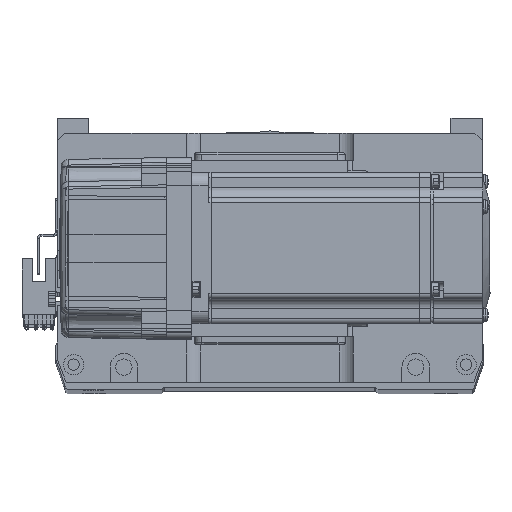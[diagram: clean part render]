
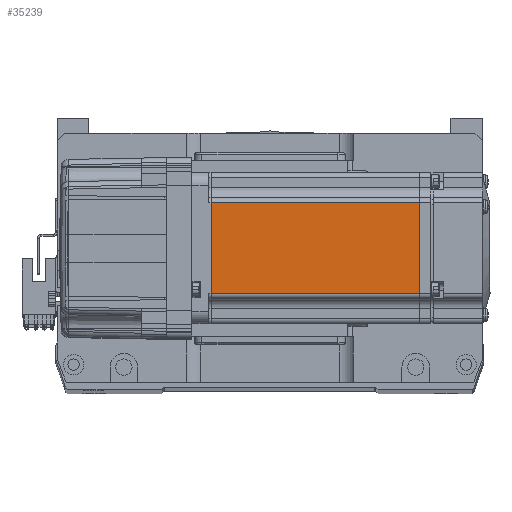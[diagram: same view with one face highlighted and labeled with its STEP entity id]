
A CAD part, top view. The second image highlights one B-rep face of the part: STEP entity #35239.
In plain terms, the highlighted planar face has unit normal (0, 0, 1) as drawn and (0, -1, 0) by its records, which use the part's own axes.
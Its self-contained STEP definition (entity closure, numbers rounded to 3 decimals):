
#461 = CARTESIAN_POINT ( 'NONE',  ( -7.75, -30., -18. ) ) ;
#705 = AXIS2_PLACEMENT_3D ( 'NONE', #25609, #21523, #46402 ) ;
#894 = VERTEX_POINT ( 'NONE', #43061 ) ;
#992 = VERTEX_POINT ( 'NONE', #49820 ) ;
#2748 = VECTOR ( 'NONE', #24475, 1000. ) ;
#5196 = ORIENTED_EDGE ( 'NONE', *, *, #39292, .T. ) ;
#11487 = ORIENTED_EDGE ( 'NONE', *, *, #30704, .T. ) ;
#15239 = CARTESIAN_POINT ( 'NONE',  ( -90.45, -30., -25. ) ) ;
#17259 = LINE ( 'NONE', #29127, #2748 ) ;
#19315 = FACE_OUTER_BOUND ( 'NONE', #26455, .T. ) ;
#20562 = CARTESIAN_POINT ( 'NONE',  ( -6.5, -30., 18. ) ) ;
#21523 = DIRECTION ( 'NONE',  ( 0., -1., 0. ) ) ;
#24475 = DIRECTION ( 'NONE',  ( 0., 0., 1. ) ) ;
#24971 = EDGE_CURVE ( 'NONE', #894, #33936, #48552, .T. ) ;
#25191 = VECTOR ( 'NONE', #59051, 1000. ) ;
#25609 = CARTESIAN_POINT ( 'NONE',  ( -6.5, -30., -25. ) ) ;
#26455 = EDGE_LOOP ( 'NONE', ( #5196, #46386, #11487, #34425 ) ) ;
#29127 = CARTESIAN_POINT ( 'NONE',  ( -7.75, -30., -25. ) ) ;
#30704 = EDGE_CURVE ( 'NONE', #33936, #992, #38175, .T. ) ;
#33936 = VERTEX_POINT ( 'NONE', #48478 ) ;
#34425 = ORIENTED_EDGE ( 'NONE', *, *, #45823, .T. ) ;
#35239 = ADVANCED_FACE ( 'NONE', ( #19315 ), #50378, .T. ) ;
#38175 = LINE ( 'NONE', #15239, #25191 ) ;
#39292 = EDGE_CURVE ( 'NONE', #48894, #894, #17259, .T. ) ;
#43061 = CARTESIAN_POINT ( 'NONE',  ( -7.75, -30., 18. ) ) ;
#45469 = CARTESIAN_POINT ( 'NONE',  ( -6.5, -30., -18. ) ) ;
#45823 = EDGE_CURVE ( 'NONE', #992, #48894, #49244, .T. ) ;
#46386 = ORIENTED_EDGE ( 'NONE', *, *, #24971, .T. ) ;
#46402 = DIRECTION ( 'NONE',  ( 0., 0., -1. ) ) ;
#47700 = VECTOR ( 'NONE', #55462, 1000. ) ;
#48478 = CARTESIAN_POINT ( 'NONE',  ( -90.45, -30., 18. ) ) ;
#48552 = LINE ( 'NONE', #20562, #61509 ) ;
#48894 = VERTEX_POINT ( 'NONE', #461 ) ;
#49244 = LINE ( 'NONE', #45469, #47700 ) ;
#49820 = CARTESIAN_POINT ( 'NONE',  ( -90.45, -30., -18. ) ) ;
#50378 = PLANE ( 'NONE',  #705 ) ;
#51170 = DIRECTION ( 'NONE',  ( -1., 0., 0. ) ) ;
#55462 = DIRECTION ( 'NONE',  ( 1., 0., 0. ) ) ;
#59051 = DIRECTION ( 'NONE',  ( 0., 0., -1. ) ) ;
#61509 = VECTOR ( 'NONE', #51170, 1000. ) ;
